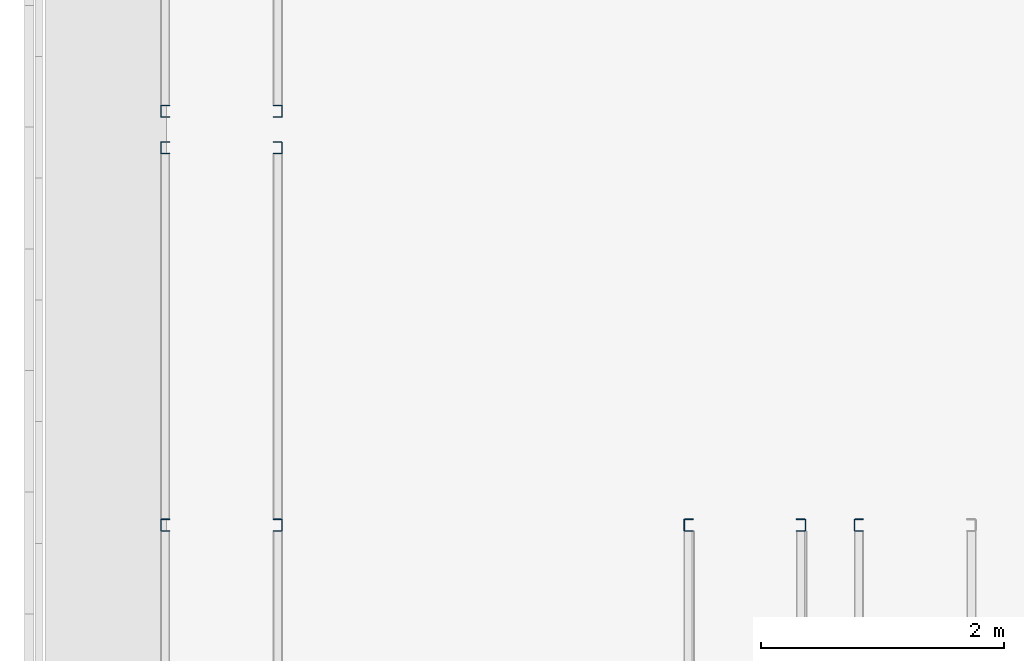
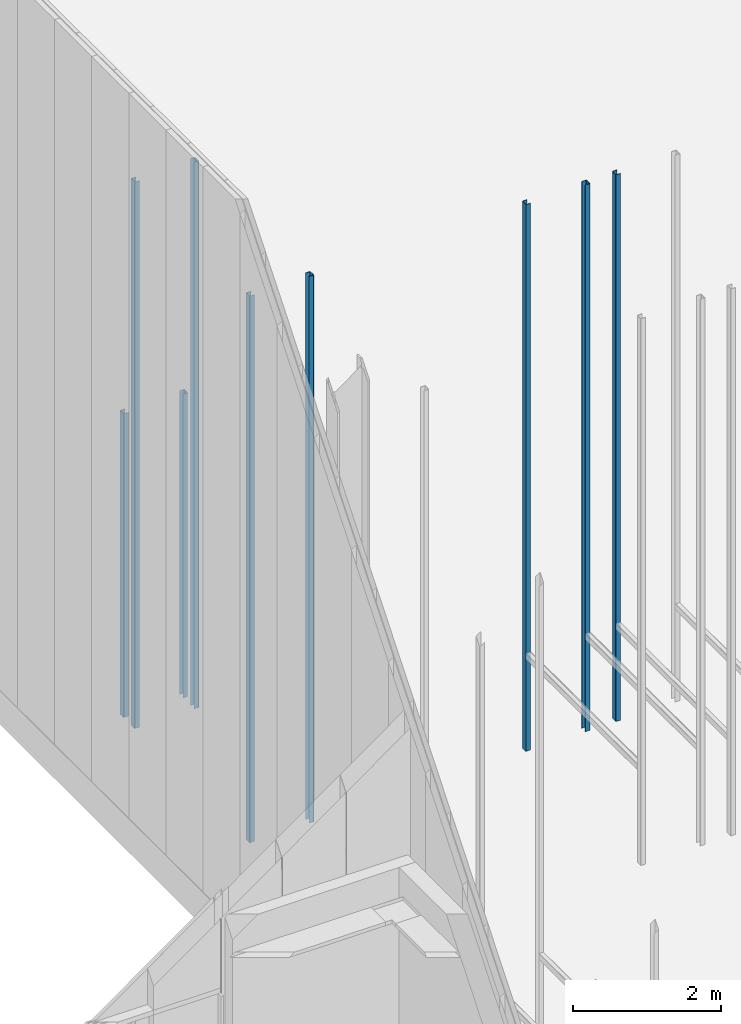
# One storey, part 34 of 302: 9 columns.
"""IFC2X3 building model written with IfcOpenShell, lengths in metres."""

from ifc_helpers import new_model, entity, si_unit, converted_unit, derived_unit, direction, frame, frame_2d, origin, place, context, subcontext, project, spatial, polyline, circle_curve, parameter, trimmed, segment, composite_curve, outline, extrude, source, transform, mapped, material, type_object, type_shapes, element, save


model = new_model("IFC2X3")

# Units and contexts
model_context = context("Model", 3, precision=1e-05, world=origin(), true_north=direction((6.12303176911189e-17, 1.0)))
body_context = subcontext(model_context, "Body", "Model", "MODEL_VIEW")
ifc_project = project(units=[si_unit("LENGTHUNIT", "METRE"), si_unit("AREAUNIT", "SQUARE_METRE"), si_unit("VOLUMEUNIT", "CUBIC_METRE"), converted_unit("PLANEANGLEUNIT", "DEGREE", entity("IfcRatioMeasure", 0.0174532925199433), si_unit("PLANEANGLEUNIT", "RADIAN"), dimensions=[0, 0, 0, 0, 0, 0, 0]), si_unit("MASSUNIT", "GRAM", prefix="KILO"), derived_unit("MASSDENSITYUNIT", [(si_unit("MASSUNIT", "GRAM", prefix="KILO"), 1), (si_unit("LENGTHUNIT", "METRE"), -3)]), derived_unit("MOMENTOFINERTIAUNIT", [(si_unit("LENGTHUNIT", "METRE"), 4)]), si_unit("TIMEUNIT", "SECOND"), si_unit("FREQUENCYUNIT", "HERTZ"), si_unit("THERMODYNAMICTEMPERATUREUNIT", "DEGREE_CELSIUS"), derived_unit("THERMALTRANSMITTANCEUNIT", [(si_unit("MASSUNIT", "GRAM", prefix="KILO"), 1), (si_unit("THERMODYNAMICTEMPERATUREUNIT", "KELVIN"), -1), (si_unit("TIMEUNIT", "SECOND"), -3)]), derived_unit("VOLUMETRICFLOWRATEUNIT", [(si_unit("LENGTHUNIT", "METRE"), 3), (si_unit("TIMEUNIT", "SECOND"), -1)]), si_unit("ELECTRICCURRENTUNIT", "AMPERE"), si_unit("ELECTRICVOLTAGEUNIT", "VOLT"), si_unit("POWERUNIT", "WATT"), si_unit("FORCEUNIT", "NEWTON", prefix="KILO"), si_unit("ILLUMINANCEUNIT", "LUX"), si_unit("LUMINOUSFLUXUNIT", "LUMEN"), si_unit("LUMINOUSINTENSITYUNIT", "CANDELA"), derived_unit("USERDEFINED", [(si_unit("MASSUNIT", "GRAM", prefix="KILO"), -1), (si_unit("LENGTHUNIT", "METRE"), -2), (si_unit("TIMEUNIT", "SECOND"), 3), (si_unit("LUMINOUSFLUXUNIT", "LUMEN"), 1)]), derived_unit("LINEARVELOCITYUNIT", [(si_unit("LENGTHUNIT", "METRE"), 1), (si_unit("TIMEUNIT", "SECOND"), -1)]), si_unit("PRESSUREUNIT", "PASCAL"), derived_unit("USERDEFINED", [(si_unit("LENGTHUNIT", "METRE"), -2), (si_unit("MASSUNIT", "GRAM", prefix="KILO"), 1), (si_unit("TIMEUNIT", "SECOND"), -2)]), derived_unit("LINEARFORCEUNIT", [(si_unit("MASSUNIT", "GRAM", prefix="KILO"), 1), (si_unit("LENGTHUNIT", "METRE"), 1), (si_unit("TIMEUNIT", "SECOND"), -2), (si_unit("LENGTHUNIT", "METRE"), -1)]), derived_unit("PLANARFORCEUNIT", [(si_unit("MASSUNIT", "GRAM", prefix="KILO"), 1), (si_unit("LENGTHUNIT", "METRE"), 1), (si_unit("TIMEUNIT", "SECOND"), -2), (si_unit("LENGTHUNIT", "METRE"), -2)])], contexts=[model_context])

# Site, building, storey
site_placement = place(None, origin())
site = spatial("IfcSite", under=ifc_project, at=site_placement, Name="Default", CompositionType="ELEMENT")
building_placement = place(site_placement, origin())
building = spatial("IfcBuilding", under=site, at=building_placement, CompositionType="ELEMENT")
storey_placement = place(building_placement, frame((0.0, 0.0, -1.3)))
storey = spatial("IfcBuildingStorey", under=building, at=storey_placement, Name="00_EG", CompositionType="ELEMENT", Elevation=-1.3)

# Columns
ifc_material = material(Name="Metall - Baustahl S235")
column_type_1 = type_object("IfcColumnType", Name="Leichter Stahl Schlossschrauben Stütze:C 100", PredefinedType="COLUMN", material=ifc_material)
shared_shape_1 = source(origin(), body_context, "Body", "SweptSolid", [
    extrude(outline(composite_curve([segment(polyline([(-0.0469749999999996, -0.0499999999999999), (0.0214500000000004, -0.0499999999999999)]), True, "CONTINUOUS"), segment(trimmed(circle_curve(frame_2d((0.0214500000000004, -0.0434249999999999), x_axis=(0.0, -1.0)), 0.00657500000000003), [parameter(0.0)], [parameter(89.9999999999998)], True, "PARAMETER"), True, "CONTINUOUS"), segment(polyline([(0.0280250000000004, -0.0434249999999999), (0.0280250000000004, 0.0434250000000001)]), True, "CONTINUOUS"), segment(trimmed(circle_curve(frame_2d((0.0214500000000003, 0.0434250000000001), x_axis=(1.0, 0.0)), 0.0065750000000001), [parameter(0.0)], [parameter(89.9999999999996)], True, "PARAMETER"), True, "CONTINUOUS"), segment(polyline([(0.0214500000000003, 0.0500000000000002), (-0.0469750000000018, 0.0500000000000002)]), True, "CONTINUOUS"), segment(polyline([(-0.0469750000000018, 0.0500000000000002), (-0.0469750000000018, 0.0450000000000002)]), True, "CONTINUOUS"), segment(polyline([(-0.0469750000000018, 0.0450000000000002), (0.0214500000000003, 0.0450000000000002)]), True, "CONTINUOUS"), segment(trimmed(circle_curve(frame_2d((0.0214500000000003, 0.0434249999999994), x_axis=(0.0, 1.0)), 0.00157500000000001), [parameter(269.999999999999)], [parameter(0.0)], True, "PARAMETER"), False, "CONTINUOUS"), segment(polyline([(0.0230250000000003, 0.0434249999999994), (0.0230250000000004, -0.0434249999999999)]), True, "CONTINUOUS"), segment(trimmed(circle_curve(frame_2d((0.0214500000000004, -0.0434249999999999), x_axis=(1.0, 0.0)), 0.00157500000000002), [parameter(270.0)], [parameter(0.0)], True, "PARAMETER"), False, "CONTINUOUS"), segment(polyline([(0.0214500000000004, -0.0449999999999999), (-0.0469749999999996, -0.0449999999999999)]), True, "CONTINUOUS"), segment(polyline([(-0.0469749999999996, -0.0449999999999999), (-0.0469749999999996, -0.0499999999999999)]), True, "CONTINUOUS")], self_intersect=False)), frame((0.0499999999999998, 0.0280250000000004, -0.0300000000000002), z_axis=(0.0, 0.0, 1.0), x_axis=(0.0, -1.0, 0.0)), (0.0, 0.0, 1.0), 9.0),
])
type_shapes(column_type_1, [shared_shape_1])
for number, where, z_axis, x_axis in (
    (1, (-200.790111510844, 51.948088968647, 1.3), (0.0, 0.0, 1.0), (0.0, -1.0, 0.0)),
    (2, (-202.190111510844, 51.948088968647, 1.3), (0.0, 0.0, 1.0), (0.0, -1.0, 0.0)),
    (3, (-206.490111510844, 51.9480889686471, 1.3), (0.0, 0.0, 1.0), (0.0, -1.0, 0.0)),
    (4, (-206.490111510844, 55.0480889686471, 1.3), (0.0, 0.0, 1.0), (0.0, -1.0, 0.0)),
):
    element("IfcColumn", number, at=place(storey_placement, frame(where, z_axis=z_axis, x_axis=x_axis)), inside=storey, type_object=column_type_1, material=ifc_material, Name="Leichter Stahl Schlossschrauben Stütze:C 100", ObjectType="Leichter Stahl Schlossschrauben Stütze:C 100", context=body_context, shape_type="MappedRepresentation", body=[
        mapped(shared_shape_1, transform((0.0, 0.0, 0.0), scale=1.0)),
    ])
column_type_2 = type_object("IfcColumnType", Name="Leichter Stahl Schlossschrauben Stütze:C 100", PredefinedType="COLUMN", material=ifc_material)
shared_shape_2 = source(origin(), body_context, "Body", "SweptSolid", [
    extrude(outline(composite_curve([segment(polyline([(-0.0214500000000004, -0.0499999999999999), (0.0469749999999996, -0.0499999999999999)]), True, "CONTINUOUS"), segment(polyline([(0.0469749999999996, -0.0499999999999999), (0.0469749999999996, -0.0449999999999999)]), True, "CONTINUOUS"), segment(polyline([(0.0469749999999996, -0.0449999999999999), (-0.0214500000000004, -0.045)]), True, "CONTINUOUS"), segment(trimmed(circle_curve(frame_2d((-0.0214500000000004, -0.043425), x_axis=(0.0, -1.0)), 0.00157500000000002), [parameter(270.0)], [parameter(0.0)], True, "PARAMETER"), False, "CONTINUOUS"), segment(polyline([(-0.0230250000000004, -0.0434249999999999), (-0.0230250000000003, 0.0434249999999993)]), True, "CONTINUOUS"), segment(trimmed(circle_curve(frame_2d((-0.0214500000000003, 0.0434249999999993), x_axis=(-1.0, 0.0)), 0.00157500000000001), [parameter(269.999999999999)], [parameter(0.0)], True, "PARAMETER"), False, "CONTINUOUS"), segment(polyline([(-0.0214500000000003, 0.0450000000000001), (0.0469750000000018, 0.0450000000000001)]), True, "CONTINUOUS"), segment(polyline([(0.0469750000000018, 0.0450000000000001), (0.0469750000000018, 0.0500000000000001)]), True, "CONTINUOUS"), segment(polyline([(0.0469750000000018, 0.0500000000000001), (-0.0214500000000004, 0.0500000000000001)]), True, "CONTINUOUS"), segment(trimmed(circle_curve(frame_2d((-0.0214500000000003, 0.043425), x_axis=(0.0, 1.0)), 0.0065750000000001), [parameter(0.0)], [parameter(89.9999999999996)], True, "PARAMETER"), True, "CONTINUOUS"), segment(polyline([(-0.0280250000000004, 0.043425), (-0.0280250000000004, -0.043425)]), True, "CONTINUOUS"), segment(trimmed(circle_curve(frame_2d((-0.0214500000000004, -0.0434249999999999), x_axis=(-1.0, 0.0)), 0.00657500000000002), [parameter(0.0)], [parameter(89.9999999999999)], True, "PARAMETER"), True, "CONTINUOUS")], self_intersect=False)), frame((0.0499999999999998, -0.0280250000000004, -0.0300000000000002), z_axis=(0.0, 0.0, 1.0), x_axis=(0.0, -1.0, 0.0)), (0.0, 0.0, 1.0), 9.0),
])
type_shapes(column_type_2, [shared_shape_2])
for number, where, z_axis, x_axis in (
    (5, (-201.190111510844, 51.948088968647, 1.3), (0.0, 0.0, 1.0), (0.0, -1.0, 0.0)),
    (6, (-205.490111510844, 51.9480889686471, 1.3), (0.0, 0.0, 1.0), (0.0, -1.0, 0.0)),
    (7, (-205.490111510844, 55.0480889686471, 1.3), (0.0, 0.0, 1.0), (0.0, -1.0, 0.0)),
):
    element("IfcColumn", number, at=place(storey_placement, frame(where, z_axis=z_axis, x_axis=x_axis)), inside=storey, type_object=column_type_2, material=ifc_material, Name="Leichter Stahl Schlossschrauben Stütze:C 100", ObjectType="Leichter Stahl Schlossschrauben Stütze:C 100", context=body_context, shape_type="MappedRepresentation", body=[
        mapped(shared_shape_2, transform((0.0, 0.0, 0.0), scale=1.0)),
    ])
column_type_3 = type_object("IfcColumnType", Name="Leichter Stahl Schlossschrauben Stütze:C 100", PredefinedType="COLUMN", material=ifc_material)
shared_shape_3 = source(origin(), body_context, "Body", "SweptSolid", [
    extrude(outline(composite_curve([segment(polyline([(-0.0469749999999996, -0.0499999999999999), (0.0214500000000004, -0.0499999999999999)]), True, "CONTINUOUS"), segment(trimmed(circle_curve(frame_2d((0.0214500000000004, -0.0434249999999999), x_axis=(0.0, -1.0)), 0.00657500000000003), [parameter(0.0)], [parameter(89.9999999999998)], True, "PARAMETER"), True, "CONTINUOUS"), segment(polyline([(0.0280250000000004, -0.0434249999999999), (0.0280250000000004, 0.0434250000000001)]), True, "CONTINUOUS"), segment(trimmed(circle_curve(frame_2d((0.0214500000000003, 0.0434250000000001), x_axis=(1.0, 0.0)), 0.0065750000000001), [parameter(0.0)], [parameter(89.9999999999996)], True, "PARAMETER"), True, "CONTINUOUS"), segment(polyline([(0.0214500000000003, 0.0500000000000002), (-0.0469750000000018, 0.0500000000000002)]), True, "CONTINUOUS"), segment(polyline([(-0.0469750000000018, 0.0500000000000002), (-0.0469750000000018, 0.0450000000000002)]), True, "CONTINUOUS"), segment(polyline([(-0.0469750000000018, 0.0450000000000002), (0.0214500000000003, 0.0450000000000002)]), True, "CONTINUOUS"), segment(trimmed(circle_curve(frame_2d((0.0214500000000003, 0.0434249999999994), x_axis=(0.0, 1.0)), 0.00157500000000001), [parameter(269.999999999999)], [parameter(0.0)], True, "PARAMETER"), False, "CONTINUOUS"), segment(polyline([(0.0230250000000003, 0.0434249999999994), (0.0230250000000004, -0.0434249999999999)]), True, "CONTINUOUS"), segment(trimmed(circle_curve(frame_2d((0.0214500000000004, -0.0434249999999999), x_axis=(1.0, 0.0)), 0.00157500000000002), [parameter(270.0)], [parameter(0.0)], True, "PARAMETER"), False, "CONTINUOUS"), segment(polyline([(0.0214500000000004, -0.0449999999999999), (-0.0469749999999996, -0.0449999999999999)]), True, "CONTINUOUS"), segment(polyline([(-0.0469749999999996, -0.0449999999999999), (-0.0469749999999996, -0.0499999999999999)]), True, "CONTINUOUS")], self_intersect=False)), frame((0.0499999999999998, 0.0280250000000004, -0.0300000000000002), z_axis=(0.0, 0.0, 1.0), x_axis=(0.0, -1.0, 0.0)), (0.0, 0.0, 1.0), 5.0),
])
type_shapes(column_type_3, [shared_shape_3])
column_1_placement = place(storey_placement, frame((-206.490111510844, 55.348088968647, 1.3), z_axis=(0.0, 0.0, 1.0), x_axis=(0.0, -1.0, 0.0)))
element("IfcColumn", 8, at=column_1_placement, inside=storey, type_object=column_type_3, material=ifc_material, Name="Leichter Stahl Schlossschrauben Stütze:C 100", ObjectType="Leichter Stahl Schlossschrauben Stütze:C 100", context=body_context, shape_type="MappedRepresentation", body=[
    mapped(shared_shape_3, transform((0.0, 0.0, 0.0), scale=1.0)),
])
column_type_4 = type_object("IfcColumnType", Name="Leichter Stahl Schlossschrauben Stütze:C 100", PredefinedType="COLUMN", material=ifc_material)
shared_shape_4 = source(origin(), body_context, "Body", "SweptSolid", [
    extrude(outline(composite_curve([segment(polyline([(-0.0214500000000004, -0.0499999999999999), (0.0469749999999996, -0.0499999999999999)]), True, "CONTINUOUS"), segment(polyline([(0.0469749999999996, -0.0499999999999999), (0.0469749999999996, -0.0449999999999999)]), True, "CONTINUOUS"), segment(polyline([(0.0469749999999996, -0.0449999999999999), (-0.0214500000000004, -0.045)]), True, "CONTINUOUS"), segment(trimmed(circle_curve(frame_2d((-0.0214500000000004, -0.043425), x_axis=(0.0, -1.0)), 0.00157500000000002), [parameter(270.0)], [parameter(0.0)], True, "PARAMETER"), False, "CONTINUOUS"), segment(polyline([(-0.0230250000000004, -0.0434249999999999), (-0.0230250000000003, 0.0434249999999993)]), True, "CONTINUOUS"), segment(trimmed(circle_curve(frame_2d((-0.0214500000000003, 0.0434249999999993), x_axis=(-1.0, 0.0)), 0.00157500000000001), [parameter(269.999999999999)], [parameter(0.0)], True, "PARAMETER"), False, "CONTINUOUS"), segment(polyline([(-0.0214500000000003, 0.0450000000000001), (0.0469750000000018, 0.0450000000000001)]), True, "CONTINUOUS"), segment(polyline([(0.0469750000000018, 0.0450000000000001), (0.0469750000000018, 0.0500000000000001)]), True, "CONTINUOUS"), segment(polyline([(0.0469750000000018, 0.0500000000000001), (-0.0214500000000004, 0.0500000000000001)]), True, "CONTINUOUS"), segment(trimmed(circle_curve(frame_2d((-0.0214500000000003, 0.043425), x_axis=(0.0, 1.0)), 0.0065750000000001), [parameter(0.0)], [parameter(89.9999999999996)], True, "PARAMETER"), True, "CONTINUOUS"), segment(polyline([(-0.0280250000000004, 0.043425), (-0.0280250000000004, -0.043425)]), True, "CONTINUOUS"), segment(trimmed(circle_curve(frame_2d((-0.0214500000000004, -0.0434249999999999), x_axis=(-1.0, 0.0)), 0.00657500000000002), [parameter(0.0)], [parameter(89.9999999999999)], True, "PARAMETER"), True, "CONTINUOUS")], self_intersect=False)), frame((0.0499999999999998, -0.0280250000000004, -0.0300000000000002), z_axis=(0.0, 0.0, 1.0), x_axis=(0.0, -1.0, 0.0)), (0.0, 0.0, 1.0), 5.0),
])
type_shapes(column_type_4, [shared_shape_4])
column_2_placement = place(storey_placement, frame((-205.490111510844, 55.348088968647, 1.3), z_axis=(0.0, 0.0, 1.0), x_axis=(0.0, -1.0, 0.0)))
element("IfcColumn", 9, at=column_2_placement, inside=storey, type_object=column_type_4, material=ifc_material, Name="Leichter Stahl Schlossschrauben Stütze:C 100", ObjectType="Leichter Stahl Schlossschrauben Stütze:C 100", context=body_context, shape_type="MappedRepresentation", body=[
    mapped(shared_shape_4, transform((0.0, 0.0, 0.0), scale=1.0)),
])

save(model, "model.ifc")
